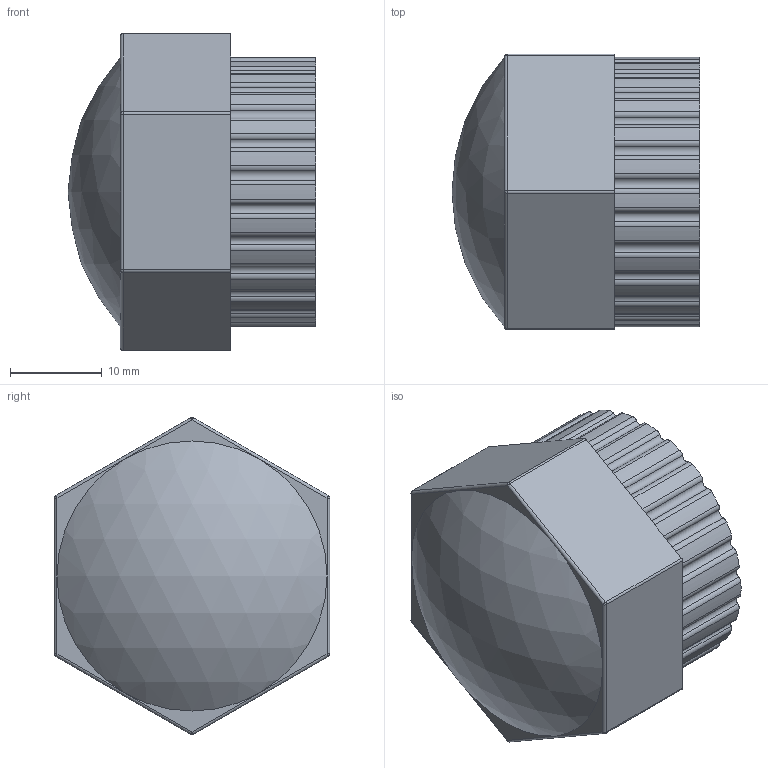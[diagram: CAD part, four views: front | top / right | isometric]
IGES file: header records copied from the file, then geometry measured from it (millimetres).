
Global section: file name: 050701005.ipt; native system: Autodesk Inventor 2015; preprocessor: unknown; author: KIM; date: 20171207.164838; units: millimetre
Bounding box: 27 x 30 x 34.55 mm (x, y, z)
Volume: 11970.6 mm3; surface area: 4979.8 mm2
Topology: 1 solids, 1 shells, 135 faces, 371 edges, 240 vertices
Faces by surface type: cylinder 87, revolution 27, plane 14, sphere 7
